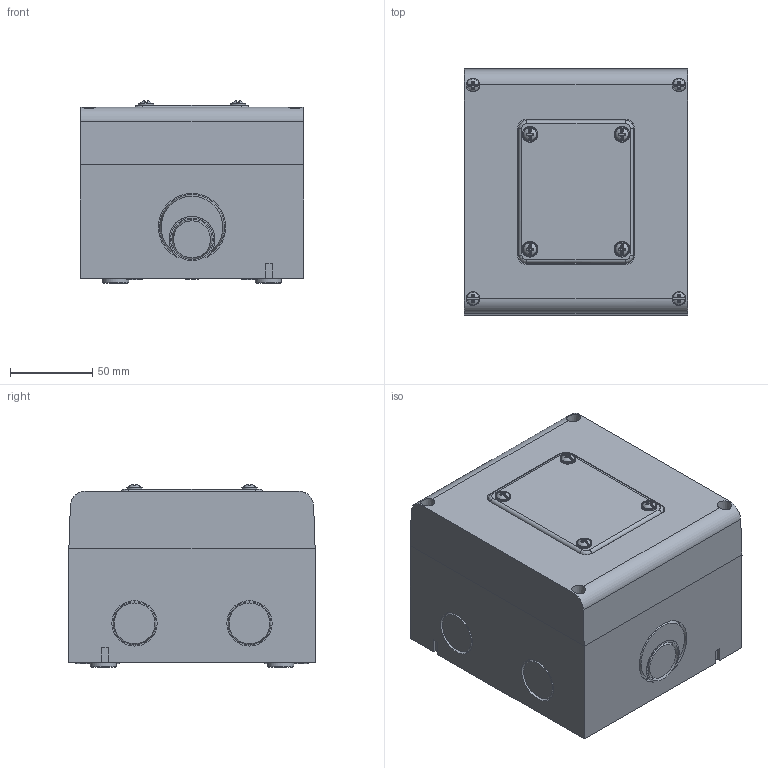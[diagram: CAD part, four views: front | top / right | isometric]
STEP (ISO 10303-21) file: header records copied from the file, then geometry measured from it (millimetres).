
FILE_DESCRIPTION(/* description */ (''),/* implementation_level */ '2;1');
FILE_NAME(/* name */ '4006980.stp',/* time_stamp */ '2019-03-04T15:09:08+01:00',/* author */ (''),/* organization */ (''),/* preprocessor_version */ 'ST-DEVELOPER v16.7',/* originating_system */ 'SIEMENS PLM Software NX 12.0',/* authorisation */ '');
FILE_SCHEMA (('AUTOMOTIVE_DESIGN { 1 0 10303 214 3 1 1 1 }'));
Products named in the file (1): bsom181861C8uo63
Bounding box: 136 x 150 x 111.28 mm (x, y, z)
Volume: 331450.9 mm3; surface area: 250812.4 mm2
Topology: 15 solids, 15 shells, 1602 faces, 3999 edges, 2507 vertices
Faces by surface type: plane 721, cylinder 450, bspline 233, cone 106, torus 68, revolution 12, sphere 12
Full cylindrical faces by diameter (mm): 2.2 x8, 2.8 x6, 3 x8, 4 x12, 5 x4, 7.6 x4, 9.259 x1, 9.5 x4, 10 x12, 14 x4, 16 x4, 26.001 x2, 27.632 x4
Entity records: 67776 total; most frequent: CARTESIAN_POINT 31633, ORIENTED_EDGE 7578, DIRECTION 7009, EDGE_CURVE 3789, AXIS2_PLACEMENT_3D 2580, VERTEX_POINT 2459, EDGE_LOOP 1870, LINE 1837
